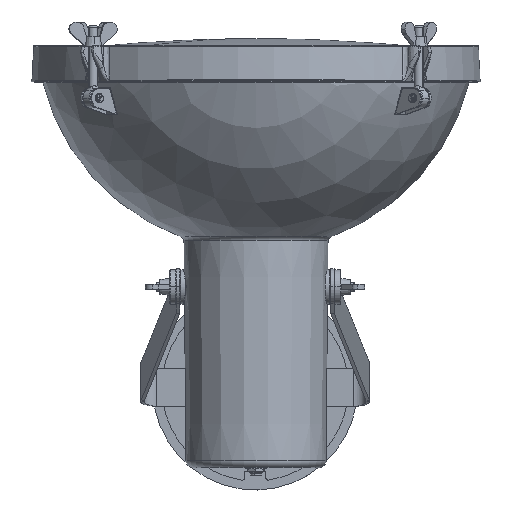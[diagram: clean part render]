
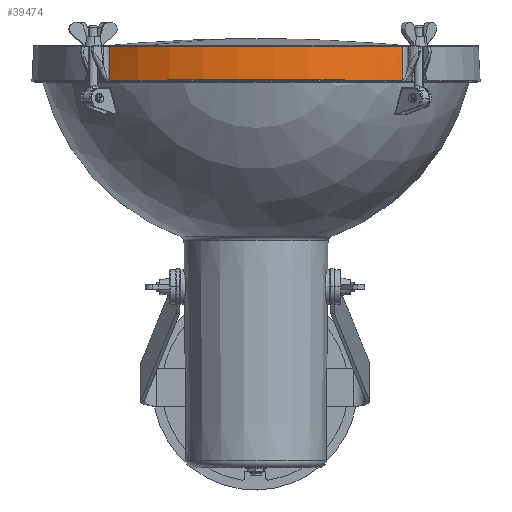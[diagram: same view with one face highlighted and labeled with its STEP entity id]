
A CAD part, top view. The second image highlights one B-rep face of the part: STEP entity #39474.
In plain terms, the highlighted conical face has half-angle 3 degrees and reference radius 186.512 mm.
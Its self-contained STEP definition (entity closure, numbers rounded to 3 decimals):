
#605 = CARTESIAN_POINT ( 'NONE',  ( -67.695, 174.134, 1.321 ) ) ;
#831 = CARTESIAN_POINT ( 'NONE',  ( -185.986, 13.88, 1.321 ) ) ;
#1247 = B_SPLINE_CURVE_WITH_KNOTS ( 'NONE', 3,
 ( #16150, #21685, #64067, #32326, #605, #37662, #5908, #43012, #11263, #48341, #16611, #53706, #21919, #59016, #27239, #64321, #32565, #831 ),
 .UNSPECIFIED., .F., .F.,
 ( 4, 2, 2, 2, 2, 2, 2, 2, 4 ),
 ( 0., 0.125, 0.25, 0.375, 0.5, 0.625, 0.75, 0.875, 1. ),
 .UNSPECIFIED. ) ;
#3089 = CARTESIAN_POINT ( 'NONE',  ( 0., 0., 1.155 ) ) ;
#3391 = CARTESIAN_POINT ( 'NONE',  ( -185.986, 13.88, 1.321 ) ) ;
#3450 = ORIENTED_EDGE ( 'NONE', *, *, #30368, .T. ) ;
#5908 = CARTESIAN_POINT ( 'NONE',  ( -97.415, 159.424, 1.321 ) ) ;
#7636 = CARTESIAN_POINT ( 'NONE',  ( -13.88, 185.986, 1.321 ) ) ;
#8399 = VERTEX_POINT ( 'NONE', #57843 ) ;
#8998 = CONICAL_SURFACE ( 'NONE', #11524, 186.512, 0.052 ) ;
#10531 = ORIENTED_EDGE ( 'NONE', *, *, #45902, .T. ) ;
#11263 = CARTESIAN_POINT ( 'NONE',  ( -124.065, 139.69, 1.321 ) ) ;
#11524 = AXIS2_PLACEMENT_3D ( 'NONE', #3089, #19088, #13734 ) ;
#11706 = B_SPLINE_CURVE_WITH_KNOTS ( 'NONE', 3,
 ( #23401, #60520, #39419, #7636 ),
 .UNSPECIFIED., .F., .F.,
 ( 4, 4 ),
 ( 0., 1. ),
 .UNSPECIFIED. ) ;
#13382 = CARTESIAN_POINT ( 'NONE',  ( -12.392, 184.634, 29.052 ) ) ;
#13734 = DIRECTION ( 'NONE',  ( -1., 0., 0. ) ) ;
#13801 = B_SPLINE_CURVE_WITH_KNOTS ( 'NONE', 3,
 ( #3391, #24475, #45808, #14047 ),
 .UNSPECIFIED., .F., .F.,
 ( 4, 4 ),
 ( 0., 1. ),
 .UNSPECIFIED. ) ;
#14047 = CARTESIAN_POINT ( 'NONE',  ( -184.634, 12.392, 29.052 ) ) ;
#16150 = CARTESIAN_POINT ( 'NONE',  ( -13.88, 185.986, 1.321 ) ) ;
#16611 = CARTESIAN_POINT ( 'NONE',  ( -146.807, 115.556, 1.321 ) ) ;
#18674 = VERTEX_POINT ( 'NONE', #62919 ) ;
#19088 = DIRECTION ( 'NONE',  ( 0., 0., -1. ) ) ;
#20755 = EDGE_CURVE ( 'NONE', #56820, #8399, #29928, .T. ) ;
#21390 = DIRECTION ( 'NONE',  ( 0., 0., 1. ) ) ;
#21685 = CARTESIAN_POINT ( 'NONE',  ( -24.899, 185.163, 1.321 ) ) ;
#21919 = CARTESIAN_POINT ( 'NONE',  ( -164.924, 87.782, 1.321 ) ) ;
#23401 = CARTESIAN_POINT ( 'NONE',  ( -12.392, 184.634, 29.052 ) ) ;
#24475 = CARTESIAN_POINT ( 'NONE',  ( -185.512, 13.391, 11.036 ) ) ;
#25320 = ORIENTED_EDGE ( 'NONE', *, *, #20755, .F. ) ;
#27239 = CARTESIAN_POINT ( 'NONE',  ( -177.845, 57.242, 1.321 ) ) ;
#29316 = VERTEX_POINT ( 'NONE', #56466 ) ;
#29928 = CIRCLE ( 'NONE', #45435, 185.05 ) ;
#30368 = EDGE_CURVE ( 'NONE', #56820, #18674, #11706, .T. ) ;
#31294 = EDGE_CURVE ( 'NONE', #29316, #8399, #13801, .T. ) ;
#32326 = CARTESIAN_POINT ( 'NONE',  ( -57.242, 177.845, 1.321 ) ) ;
#32565 = CARTESIAN_POINT ( 'NONE',  ( -185.163, 24.898, 1.321 ) ) ;
#37662 = CARTESIAN_POINT ( 'NONE',  ( -87.782, 164.924, 1.321 ) ) ;
#39419 = CARTESIAN_POINT ( 'NONE',  ( -13.392, 185.513, 11.018 ) ) ;
#39474 = ADVANCED_FACE ( 'NONE', ( #65393 ), #8998, .T. ) ;
#39947 = ORIENTED_EDGE ( 'NONE', *, *, #31294, .T. ) ;
#43012 = CARTESIAN_POINT ( 'NONE',  ( -115.556, 146.807, 1.321 ) ) ;
#45435 = AXIS2_PLACEMENT_3D ( 'NONE', #53139, #21390, #58478 ) ;
#45808 = CARTESIAN_POINT ( 'NONE',  ( -185.061, 12.895, 20.279 ) ) ;
#45902 = EDGE_CURVE ( 'NONE', #18674, #29316, #1247, .T. ) ;
#48341 = CARTESIAN_POINT ( 'NONE',  ( -139.69, 124.065, 1.321 ) ) ;
#53139 = CARTESIAN_POINT ( 'NONE',  ( 0., 0., 29.052 ) ) ;
#53706 = CARTESIAN_POINT ( 'NONE',  ( -159.424, 97.414, 1.321 ) ) ;
#56466 = CARTESIAN_POINT ( 'NONE',  ( -185.986, 13.88, 1.321 ) ) ;
#56820 = VERTEX_POINT ( 'NONE', #13382 ) ;
#57843 = CARTESIAN_POINT ( 'NONE',  ( -184.634, 12.392, 29.052 ) ) ;
#58358 = EDGE_LOOP ( 'NONE', ( #39947, #25320, #3450, #10531 ) ) ;
#58478 = DIRECTION ( 'NONE',  ( 0.062, 0.998, 0. ) ) ;
#59016 = CARTESIAN_POINT ( 'NONE',  ( -174.134, 67.695, 1.321 ) ) ;
#60520 = CARTESIAN_POINT ( 'NONE',  ( -12.896, 185.062, 20.262 ) ) ;
#62919 = CARTESIAN_POINT ( 'NONE',  ( -13.88, 185.986, 1.321 ) ) ;
#64067 = CARTESIAN_POINT ( 'NONE',  ( -35.843, 183.359, 1.321 ) ) ;
#64321 = CARTESIAN_POINT ( 'NONE',  ( -183.36, 35.843, 1.321 ) ) ;
#65393 = FACE_OUTER_BOUND ( 'NONE', #58358, .T. ) ;
